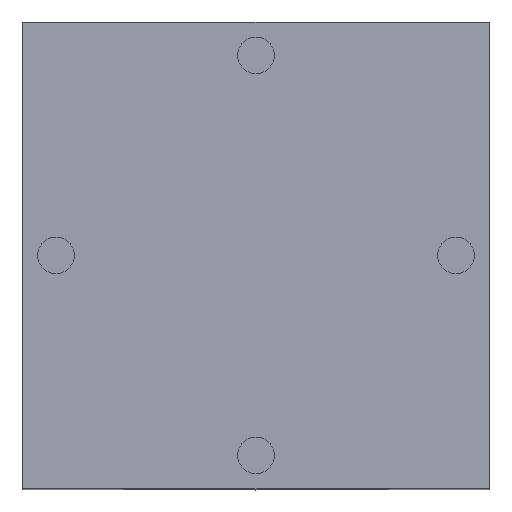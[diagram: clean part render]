
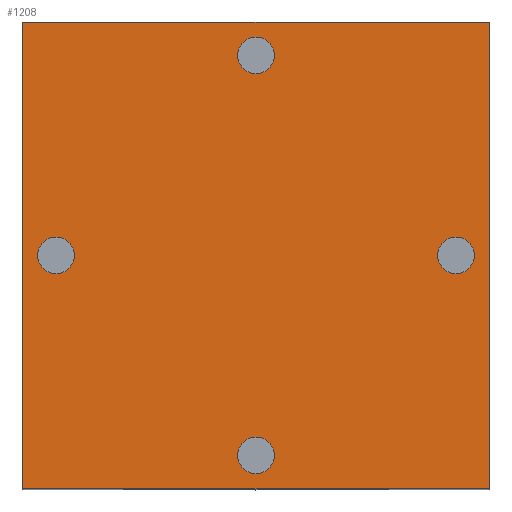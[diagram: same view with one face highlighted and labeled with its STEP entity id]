
A CAD part, top view. The second image highlights one B-rep face of the part: STEP entity #1208.
In plain terms, the highlighted planar face has unit normal (0, 0, 1).
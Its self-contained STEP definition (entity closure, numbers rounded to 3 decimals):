
#7 = ORIENTED_EDGE ( 'NONE', *, *, #151, .F. ) ;
#29 = DIRECTION ( 'NONE',  ( 0., 1., 0. ) ) ;
#31 = DIRECTION ( 'NONE',  ( -1., 0., 0. ) ) ;
#46 = CARTESIAN_POINT ( 'NONE',  ( -35., 35., 0. ) ) ;
#48 = CARTESIAN_POINT ( 'NONE',  ( 35., -35., 0. ) ) ;
#73 = AXIS2_PLACEMENT_3D ( 'NONE', #907, #1300, #116 ) ;
#82 = ORIENTED_EDGE ( 'NONE', *, *, #549, .T. ) ;
#96 = CARTESIAN_POINT ( 'NONE',  ( -30., 0., 0. ) ) ;
#110 = VECTOR ( 'NONE', #268, 1000. ) ;
#116 = DIRECTION ( 'NONE',  ( -1., 0., 0. ) ) ;
#118 = VERTEX_POINT ( 'NONE', #1762 ) ;
#125 = FACE_BOUND ( 'NONE', #845, .T. ) ;
#151 = EDGE_CURVE ( 'NONE', #1386, #1582, #667, .T. ) ;
#180 = CARTESIAN_POINT ( 'NONE',  ( -32.75, 0., 0. ) ) ;
#188 = CARTESIAN_POINT ( 'NONE',  ( 30., 0., 0. ) ) ;
#201 = AXIS2_PLACEMENT_3D ( 'NONE', #316, #306, #446 ) ;
#206 = CARTESIAN_POINT ( 'NONE',  ( 2.75, 30., 0. ) ) ;
#220 = CARTESIAN_POINT ( 'NONE',  ( -30., 0., 0. ) ) ;
#227 = CARTESIAN_POINT ( 'NONE',  ( 30., 0., 0. ) ) ;
#246 = VERTEX_POINT ( 'NONE', #46 ) ;
#252 = ORIENTED_EDGE ( 'NONE', *, *, #1626, .T. ) ;
#258 = DIRECTION ( 'NONE',  ( 1., 0., 0. ) ) ;
#268 = DIRECTION ( 'NONE',  ( -1., 0., 0. ) ) ;
#273 = VERTEX_POINT ( 'NONE', #180 ) ;
#275 = DIRECTION ( 'NONE',  ( 0., 0., -1. ) ) ;
#277 = DIRECTION ( 'NONE',  ( 0., -1., 0. ) ) ;
#291 = VERTEX_POINT ( 'NONE', #1274 ) ;
#299 = CIRCLE ( 'NONE', #581, 2.75 ) ;
#306 = DIRECTION ( 'NONE',  ( 0., 0., -1. ) ) ;
#315 = ORIENTED_EDGE ( 'NONE', *, *, #768, .T. ) ;
#316 = CARTESIAN_POINT ( 'NONE',  ( 0., 30., 0. ) ) ;
#323 = DIRECTION ( 'NONE',  ( -1., 0., 0. ) ) ;
#324 = VECTOR ( 'NONE', #258, 1000. ) ;
#331 = ORIENTED_EDGE ( 'NONE', *, *, #344, .T. ) ;
#344 = EDGE_CURVE ( 'NONE', #439, #781, #624, .T. ) ;
#365 = EDGE_CURVE ( 'NONE', #1704, #246, #986, .T. ) ;
#374 = DIRECTION ( 'NONE',  ( -1., 0., 0. ) ) ;
#391 = CARTESIAN_POINT ( 'NONE',  ( -2.75, -30., 0. ) ) ;
#423 = FACE_BOUND ( 'NONE', #1088, .T. ) ;
#424 = CARTESIAN_POINT ( 'NONE',  ( 0., -30., 0. ) ) ;
#428 = CARTESIAN_POINT ( 'NONE',  ( 0., 30., 0. ) ) ;
#439 = VERTEX_POINT ( 'NONE', #206 ) ;
#446 = DIRECTION ( 'NONE',  ( -1., 0., 0. ) ) ;
#450 = CIRCLE ( 'NONE', #1317, 2.75 ) ;
#451 = AXIS2_PLACEMENT_3D ( 'NONE', #96, #1042, #1741 ) ;
#471 = DIRECTION ( 'NONE',  ( -1., 0., 0. ) ) ;
#492 = VECTOR ( 'NONE', #277, 1000. ) ;
#527 = CARTESIAN_POINT ( 'NONE',  ( 32.75, 0., 0. ) ) ;
#549 = EDGE_CURVE ( 'NONE', #601, #118, #1322, .T. ) ;
#581 = AXIS2_PLACEMENT_3D ( 'NONE', #220, #1593, #471 ) ;
#583 = DIRECTION ( 'NONE',  ( 0., 0., -1. ) ) ;
#601 = VERTEX_POINT ( 'NONE', #527 ) ;
#618 = EDGE_CURVE ( 'NONE', #246, #1386, #794, .T. ) ;
#624 = CIRCLE ( 'NONE', #201, 2.75 ) ;
#636 = EDGE_CURVE ( 'NONE', #1582, #1704, #1375, .T. ) ;
#649 = VERTEX_POINT ( 'NONE', #933 ) ;
#655 = CARTESIAN_POINT ( 'NONE',  ( -35., -35., 0. ) ) ;
#667 = LINE ( 'NONE', #1093, #492 ) ;
#701 = FACE_BOUND ( 'NONE', #1066, .T. ) ;
#732 = VECTOR ( 'NONE', #29, 1000. ) ;
#759 = CIRCLE ( 'NONE', #1655, 2.75 ) ;
#768 = EDGE_CURVE ( 'NONE', #649, #1272, #450, .T. ) ;
#781 = VERTEX_POINT ( 'NONE', #1514 ) ;
#794 = LINE ( 'NONE', #940, #324 ) ;
#795 = CIRCLE ( 'NONE', #1028, 2.75 ) ;
#829 = CARTESIAN_POINT ( 'NONE',  ( 0., 0., 0. ) ) ;
#838 = ORIENTED_EDGE ( 'NONE', *, *, #1415, .T. ) ;
#845 = EDGE_LOOP ( 'NONE', ( #1564, #82 ) ) ;
#867 = EDGE_LOOP ( 'NONE', ( #1216, #1085, #7, #1506 ) ) ;
#884 = AXIS2_PLACEMENT_3D ( 'NONE', #829, #1360, #1512 ) ;
#907 = CARTESIAN_POINT ( 'NONE',  ( 0., -30., 0. ) ) ;
#933 = CARTESIAN_POINT ( 'NONE',  ( 2.75, -30., 0. ) ) ;
#937 = EDGE_CURVE ( 'NONE', #273, #291, #299, .T. ) ;
#940 = CARTESIAN_POINT ( 'NONE',  ( -35., 35., 0. ) ) ;
#986 = LINE ( 'NONE', #1004, #732 ) ;
#1004 = CARTESIAN_POINT ( 'NONE',  ( -35., -35., 0. ) ) ;
#1028 = AXIS2_PLACEMENT_3D ( 'NONE', #188, #1150, #323 ) ;
#1042 = DIRECTION ( 'NONE',  ( 0., 0., -1. ) ) ;
#1059 = ORIENTED_EDGE ( 'NONE', *, *, #1105, .T. ) ;
#1066 = EDGE_LOOP ( 'NONE', ( #1494, #1059 ) ) ;
#1085 = ORIENTED_EDGE ( 'NONE', *, *, #636, .F. ) ;
#1088 = EDGE_LOOP ( 'NONE', ( #252, #315 ) ) ;
#1093 = CARTESIAN_POINT ( 'NONE',  ( 35., 35., 0. ) ) ;
#1105 = EDGE_CURVE ( 'NONE', #291, #273, #1681, .T. ) ;
#1113 = FACE_OUTER_BOUND ( 'NONE', #867, .T. ) ;
#1150 = DIRECTION ( 'NONE',  ( 0., 0., -1. ) ) ;
#1208 = ADVANCED_FACE ( 'NONE', ( #125, #701, #1526, #423, #1113 ), #1520, .F. ) ;
#1212 = AXIS2_PLACEMENT_3D ( 'NONE', #227, #1305, #374 ) ;
#1216 = ORIENTED_EDGE ( 'NONE', *, *, #365, .F. ) ;
#1272 = VERTEX_POINT ( 'NONE', #391 ) ;
#1274 = CARTESIAN_POINT ( 'NONE',  ( -27.25, 0., 0. ) ) ;
#1297 = EDGE_LOOP ( 'NONE', ( #838, #331 ) ) ;
#1300 = DIRECTION ( 'NONE',  ( 0., 0., -1. ) ) ;
#1305 = DIRECTION ( 'NONE',  ( 0., 0., -1. ) ) ;
#1317 = AXIS2_PLACEMENT_3D ( 'NONE', #424, #275, #1374 ) ;
#1322 = CIRCLE ( 'NONE', #1212, 2.75 ) ;
#1360 = DIRECTION ( 'NONE',  ( 0., 0., -1. ) ) ;
#1374 = DIRECTION ( 'NONE',  ( -1., 0., 0. ) ) ;
#1375 = LINE ( 'NONE', #1488, #110 ) ;
#1386 = VERTEX_POINT ( 'NONE', #1387 ) ;
#1387 = CARTESIAN_POINT ( 'NONE',  ( 35., 35., 0. ) ) ;
#1397 = CIRCLE ( 'NONE', #73, 2.75 ) ;
#1415 = EDGE_CURVE ( 'NONE', #781, #439, #759, .T. ) ;
#1488 = CARTESIAN_POINT ( 'NONE',  ( 35., -35., 0. ) ) ;
#1494 = ORIENTED_EDGE ( 'NONE', *, *, #937, .T. ) ;
#1506 = ORIENTED_EDGE ( 'NONE', *, *, #618, .F. ) ;
#1512 = DIRECTION ( 'NONE',  ( -1., 0., 0. ) ) ;
#1514 = CARTESIAN_POINT ( 'NONE',  ( -2.75, 30., 0. ) ) ;
#1520 = PLANE ( 'NONE',  #884 ) ;
#1526 = FACE_BOUND ( 'NONE', #1297, .T. ) ;
#1564 = ORIENTED_EDGE ( 'NONE', *, *, #1587, .T. ) ;
#1582 = VERTEX_POINT ( 'NONE', #48 ) ;
#1587 = EDGE_CURVE ( 'NONE', #118, #601, #795, .T. ) ;
#1593 = DIRECTION ( 'NONE',  ( 0., 0., -1. ) ) ;
#1626 = EDGE_CURVE ( 'NONE', #1272, #649, #1397, .T. ) ;
#1655 = AXIS2_PLACEMENT_3D ( 'NONE', #428, #583, #31 ) ;
#1681 = CIRCLE ( 'NONE', #451, 2.75 ) ;
#1704 = VERTEX_POINT ( 'NONE', #655 ) ;
#1741 = DIRECTION ( 'NONE',  ( -1., 0., 0. ) ) ;
#1762 = CARTESIAN_POINT ( 'NONE',  ( 27.25, 0., 0. ) ) ;
